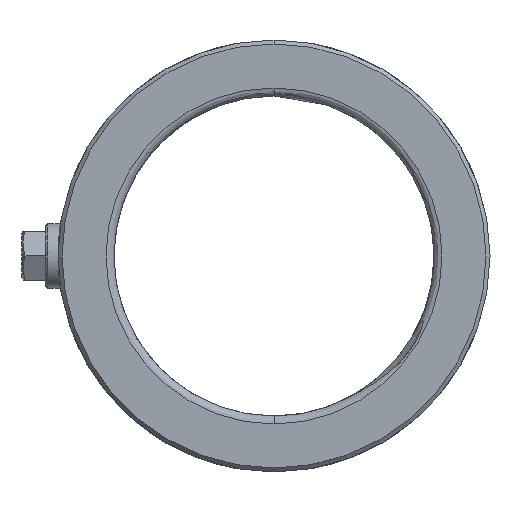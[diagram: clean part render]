
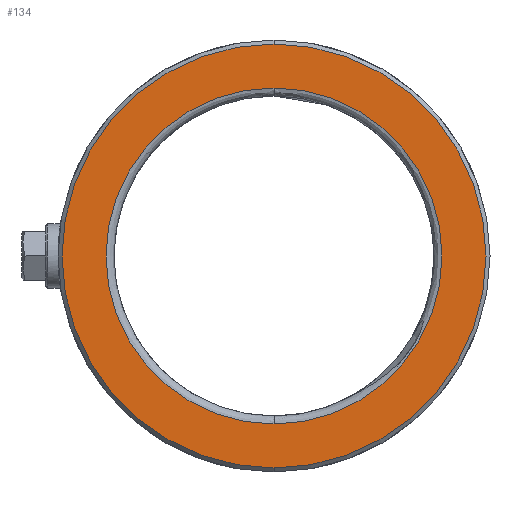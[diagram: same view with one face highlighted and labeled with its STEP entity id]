
A CAD part, left-side view. The second image highlights one B-rep face of the part: STEP entity #134.
In plain terms, the highlighted free-form (B-spline) face has degree [1, 1] with [2, 2] control points.
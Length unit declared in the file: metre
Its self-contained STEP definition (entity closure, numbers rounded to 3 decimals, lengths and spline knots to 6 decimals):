
#134 = ADVANCED_FACE( '', ( #269, #270 ), #271, .T. );
#269 = FACE_BOUND( '', #1965, .T. );
#270 = FACE_OUTER_BOUND( '', #1966, .T. );
#271 = B_SPLINE_SURFACE_WITH_KNOTS( '', 1, 1, ( ( #1967, #1968 ), ( #1969, #1970 ) ), .UNSPECIFIED., .F., .F., .F., ( 2, 2 ), ( 2, 2 ), ( 0., 1. ), ( 0., 1. ), .UNSPECIFIED. );
#1965 = EDGE_LOOP( '', ( #2539, #2540 ) );
#1966 = EDGE_LOOP( '', ( #2541, #2542 ) );
#1967 = CARTESIAN_POINT( '', ( 0.037586, -0.026818, -0.026818 ) );
#1968 = CARTESIAN_POINT( '', ( 0.037586, 0.026818, -0.026818 ) );
#1969 = CARTESIAN_POINT( '', ( 0.037586, -0.026818, 0.026818 ) );
#1970 = CARTESIAN_POINT( '', ( 0.037586, 0.026818, 0.026818 ) );
#2539 = ORIENTED_EDGE( '', *, *, #2682, .T. );
#2540 = ORIENTED_EDGE( '', *, *, #2752, .T. );
#2541 = ORIENTED_EDGE( '', *, *, #2678, .T. );
#2542 = ORIENTED_EDGE( '', *, *, #2675, .T. );
#2675 = EDGE_CURVE( '', #2877, #2878, #2879, .F. );
#2678 = EDGE_CURVE( '', #2878, #2877, #2882, .F. );
#2682 = EDGE_CURVE( '', #2890, #2888, #2891, .F. );
#2752 = EDGE_CURVE( '', #2888, #2890, #3002, .F. );
#2877 = VERTEX_POINT( '', #3379 );
#2878 = VERTEX_POINT( '', #3380 );
#2879 = CIRCLE( '', #3381, 0.0265 );
#2882 = CIRCLE( '', #3386, 0.0265 );
#2888 = VERTEX_POINT( '', #3403 );
#2890 = VERTEX_POINT( '', #3415 );
#2891 = CIRCLE( '', #3416, 0.021 );
#3002 = CIRCLE( '', #3996, 0.021 );
#3379 = CARTESIAN_POINT( '', ( 0.037586, 0., -0.0265 ) );
#3380 = CARTESIAN_POINT( '', ( 0.037586, 0., 0.0265 ) );
#3381 = AXIS2_PLACEMENT_3D( '', #4179, #4180, #4181 );
#3386 = AXIS2_PLACEMENT_3D( '', #4184, #4185, #4186 );
#3403 = CARTESIAN_POINT( '', ( 0.037586, 0., -0.021 ) );
#3415 = CARTESIAN_POINT( '', ( 0.037586, 0., 0.021 ) );
#3416 = AXIS2_PLACEMENT_3D( '', #4190, #4191, #4192 );
#3996 = AXIS2_PLACEMENT_3D( '', #4251, #4252, #4253 );
#4179 = CARTESIAN_POINT( '', ( 0.037586, 0., 0. ) );
#4180 = DIRECTION( '', ( 1., 0., 0. ) );
#4181 = DIRECTION( '', ( 0., 0., -1. ) );
#4184 = CARTESIAN_POINT( '', ( 0.037586, 0., 0. ) );
#4185 = DIRECTION( '', ( 1., 0., 0. ) );
#4186 = DIRECTION( '', ( 0., 0., -1. ) );
#4190 = CARTESIAN_POINT( '', ( 0.037586, 0., 0. ) );
#4191 = DIRECTION( '', ( -1., 0., 0. ) );
#4192 = DIRECTION( '', ( 0., -1., 0. ) );
#4251 = CARTESIAN_POINT( '', ( 0.037586, 0., 0. ) );
#4252 = DIRECTION( '', ( -1., 0., 0. ) );
#4253 = DIRECTION( '', ( 0., -1., 0. ) );
